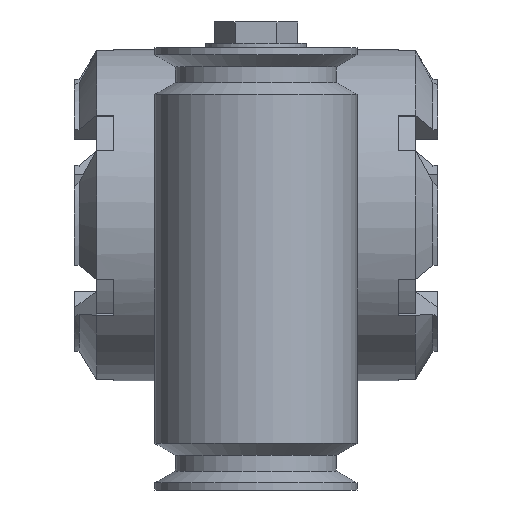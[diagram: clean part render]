
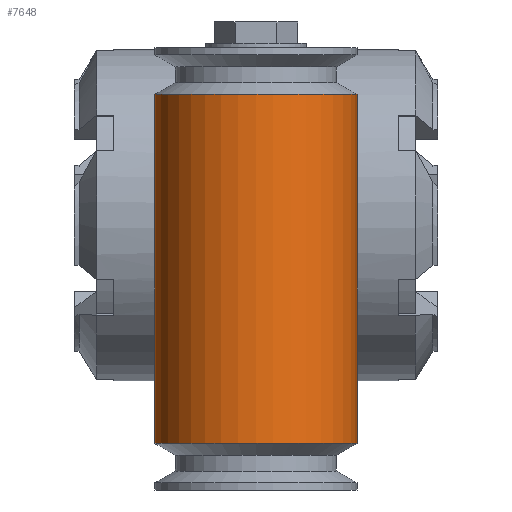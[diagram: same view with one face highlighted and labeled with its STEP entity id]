
A CAD part, front view. The second image highlights one B-rep face of the part: STEP entity #7648.
In plain terms, the highlighted cylindrical face has radius 32 mm (diameter 64 mm), a full revolution.
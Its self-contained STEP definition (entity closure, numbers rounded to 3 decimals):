
#759=CIRCLE('',#27418,32.);
#760=CIRCLE('',#27419,32.);
#3110=LINE('',#45046,#5929);
#3111=LINE('',#45051,#5930);
#5929=VECTOR('',#32320,1.);
#5930=VECTOR('',#32323,1.);
#6066=CYLINDRICAL_SURFACE('',#27420,32.);
#6292=FACE_BOUND('',#11168,.T.);
#6293=FACE_BOUND('',#11169,.T.);
#6294=FACE_BOUND('',#11170,.T.);
#7648=ADVANCED_FACE('',(#6292,#6293,#6294),#6066,.T.);
#11168=EDGE_LOOP('',(#18372));
#11169=EDGE_LOOP('',(#18373));
#11170=EDGE_LOOP('',(#18374,#18375,#18376,#18377,#18378,#18379,#18380,#18381));
#18372=ORIENTED_EDGE('',*,*,#24689,.T.);
#18373=ORIENTED_EDGE('',*,*,#24690,.T.);
#18374=ORIENTED_EDGE('',*,*,#24687,.T.);
#18375=ORIENTED_EDGE('',*,*,#24691,.T.);
#18376=ORIENTED_EDGE('',*,*,#24692,.T.);
#18377=ORIENTED_EDGE('',*,*,#24693,.T.);
#18378=ORIENTED_EDGE('',*,*,#24685,.T.);
#18379=ORIENTED_EDGE('',*,*,#24694,.T.);
#18380=ORIENTED_EDGE('',*,*,#24695,.T.);
#18381=ORIENTED_EDGE('',*,*,#24696,.T.);
#21036=VERTEX_POINT('',#45047);
#21037=VERTEX_POINT('',#45048);
#21038=VERTEX_POINT('',#45050);
#21039=VERTEX_POINT('',#45052);
#21040=VERTEX_POINT('',#45056);
#21041=VERTEX_POINT('',#45058);
#21042=VERTEX_POINT('',#45063);
#21043=VERTEX_POINT('',#45070);
#21044=VERTEX_POINT('',#45079);
#21045=VERTEX_POINT('',#45086);
#24685=EDGE_CURVE('',#21036,#21037,#3110,.T.);
#24687=EDGE_CURVE('',#21039,#21038,#3111,.T.);
#24689=EDGE_CURVE('',#21040,#21040,#759,.T.);
#24690=EDGE_CURVE('',#21041,#21041,#760,.T.);
#24691=EDGE_CURVE('',#21038,#21042,#26411,.T.);
#24692=EDGE_CURVE('',#21042,#21043,#26412,.T.);
#24693=EDGE_CURVE('',#21043,#21036,#26413,.T.);
#24694=EDGE_CURVE('',#21037,#21044,#26414,.T.);
#24695=EDGE_CURVE('',#21044,#21045,#26415,.T.);
#24696=EDGE_CURVE('',#21045,#21039,#26416,.T.);
#26411=B_SPLINE_CURVE_WITH_KNOTS('',3,(#45059,#45060,#45061,#45062),
 .UNSPECIFIED.,.F.,.F.,(4,4),(0.,1.),.UNSPECIFIED.);
#26412=B_SPLINE_CURVE_WITH_KNOTS('',3,(#45064,#45065,#45066,#45067,#45068,
#45069),.UNSPECIFIED.,.F.,.F.,(4,2,4),(0.,0.5,1.),.UNSPECIFIED.);
#26413=B_SPLINE_CURVE_WITH_KNOTS('',3,(#45071,#45072,#45073,#45074),
 .UNSPECIFIED.,.F.,.F.,(4,4),(0.,1.),.UNSPECIFIED.);
#26414=B_SPLINE_CURVE_WITH_KNOTS('',3,(#45075,#45076,#45077,#45078),
 .UNSPECIFIED.,.F.,.F.,(4,4),(0.,1.),.UNSPECIFIED.);
#26415=B_SPLINE_CURVE_WITH_KNOTS('',3,(#45080,#45081,#45082,#45083,#45084,
#45085),.UNSPECIFIED.,.F.,.F.,(4,2,4),(0.,0.5,1.),.UNSPECIFIED.);
#26416=B_SPLINE_CURVE_WITH_KNOTS('',3,(#45087,#45088,#45089,#45090),
 .UNSPECIFIED.,.F.,.F.,(4,4),(0.,1.),.UNSPECIFIED.);
#27418=AXIS2_PLACEMENT_3D('',#45055,#32328,#32329);
#27419=AXIS2_PLACEMENT_3D('',#45057,#32330,#32331);
#27420=AXIS2_PLACEMENT_3D('',#45091,#32332,#32333);
#32320=DIRECTION('',(0.,0.,1.));
#32323=DIRECTION('',(0.,0.,-1.));
#32328=DIRECTION('',(0.,0.,-1.));
#32329=DIRECTION('',(-1.,0.,0.));
#32330=DIRECTION('',(0.,0.,1.));
#32331=DIRECTION('',(-1.,0.,0.));
#32332=DIRECTION('',(0.,0.,-1.));
#32333=DIRECTION('',(1.,0.,0.));
#45046=CARTESIAN_POINT('',(7.922,9.,113.));
#45047=CARTESIAN_POINT('',(7.922,9.,-9.014));
#45048=CARTESIAN_POINT('',(7.922,9.,9.014));
#45050=CARTESIAN_POINT('',(-7.953,9.,-8.986));
#45051=CARTESIAN_POINT('',(-7.953,9.,113.));
#45052=CARTESIAN_POINT('',(-7.953,9.,8.986));
#45055=CARTESIAN_POINT('',(-0.016,-22.,38.247));
#45056=CARTESIAN_POINT('',(-32.016,-22.,38.247));
#45057=CARTESIAN_POINT('',(-0.016,-22.,-72.247));
#45058=CARTESIAN_POINT('',(-32.016,-22.,-72.247));
#45059=CARTESIAN_POINT('',(-7.953,9.,-8.986));
#45060=CARTESIAN_POINT('',(-7.282,9.172,-9.809));
#45061=CARTESIAN_POINT('',(-6.52,9.344,-10.535));
#45062=CARTESIAN_POINT('',(-5.65,9.5,-11.15));
#45063=CARTESIAN_POINT('',(-5.65,9.5,-11.15));
#45064=CARTESIAN_POINT('',(-5.65,9.5,-11.15));
#45065=CARTESIAN_POINT('',(-3.911,9.811,-12.032));
#45066=CARTESIAN_POINT('',(-1.966,10.,-12.497));
#45067=CARTESIAN_POINT('',(1.927,10.,-12.503));
#45068=CARTESIAN_POINT('',(3.877,9.812,-12.043));
#45069=CARTESIAN_POINT('',(5.619,9.5,-11.166));
#45070=CARTESIAN_POINT('',(5.619,9.5,-11.166));
#45071=CARTESIAN_POINT('',(5.619,9.5,-11.166));
#45072=CARTESIAN_POINT('',(6.488,9.345,-10.554));
#45073=CARTESIAN_POINT('',(7.25,9.172,-9.833));
#45074=CARTESIAN_POINT('',(7.922,9.,-9.014));
#45075=CARTESIAN_POINT('',(7.922,9.,9.014));
#45076=CARTESIAN_POINT('',(7.25,9.172,9.833));
#45077=CARTESIAN_POINT('',(6.488,9.345,10.554));
#45078=CARTESIAN_POINT('',(5.619,9.5,11.166));
#45079=CARTESIAN_POINT('',(5.619,9.5,11.166));
#45080=CARTESIAN_POINT('',(5.619,9.5,11.166));
#45081=CARTESIAN_POINT('',(3.877,9.812,12.042));
#45082=CARTESIAN_POINT('',(1.931,10.,12.502));
#45083=CARTESIAN_POINT('',(-1.962,10.,12.498));
#45084=CARTESIAN_POINT('',(-3.911,9.811,12.032));
#45085=CARTESIAN_POINT('',(-5.65,9.5,11.15));
#45086=CARTESIAN_POINT('',(-5.65,9.5,11.15));
#45087=CARTESIAN_POINT('',(-5.65,9.5,11.15));
#45088=CARTESIAN_POINT('',(-6.52,9.344,10.535));
#45089=CARTESIAN_POINT('',(-7.282,9.172,9.809));
#45090=CARTESIAN_POINT('',(-7.953,9.,8.986));
#45091=CARTESIAN_POINT('',(-0.016,-22.,113.));
